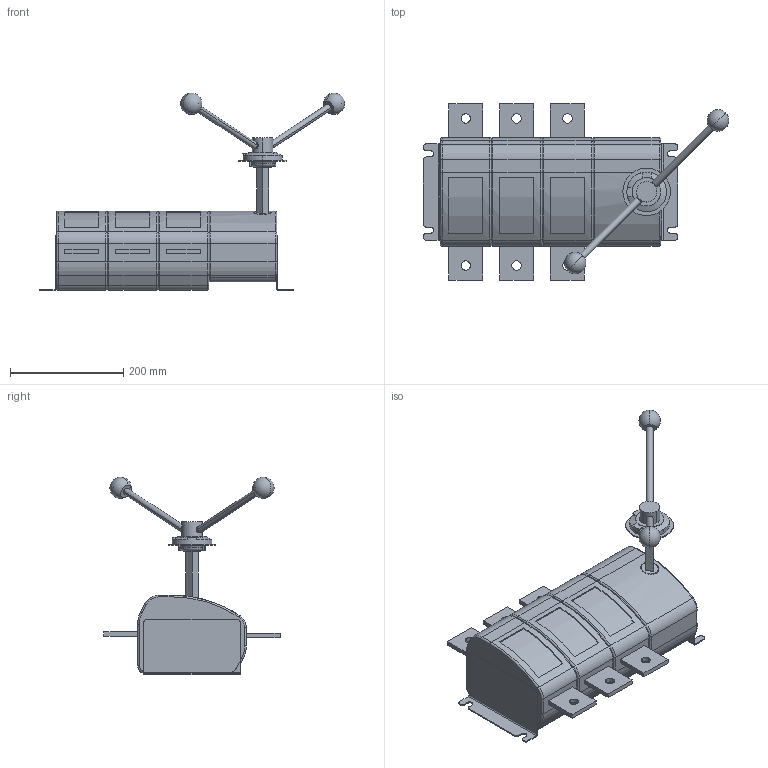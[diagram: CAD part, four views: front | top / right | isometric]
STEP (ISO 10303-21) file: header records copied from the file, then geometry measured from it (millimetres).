
FILE_DESCRIPTION (( 'STEP AP214' ), '1' );
FILE_NAME ('Âûêëþ÷àòåëü íàãðóçêè ÂÍÊ-41-31130-1000À-IP32-ÓÕË3-ÊÝÀÇ.STEP', '2023-04-19T13:37:33', ( '' ), ( '' ), 'SwSTEP 2.0', 'SolidWorks 2018', '' );
FILE_SCHEMA (( 'AUTOMOTIVE_DESIGN' ));
Length unit declared in the file: millimetre
Products named in the file (1): Âûêëþ÷àòåëü íàãðóçêè ÂÍÊ-41-31130-1000À-IP32-ÓÕË3-ÊÝÀÇ
Bounding box: 539.34 x 311.4 x 349.8 mm (x, y, z)
Volume: 9429857 mm3; surface area: 536727 mm2
Topology: 9 solids, 9 shells, 344 faces, 815 edges, 504 vertices
Faces by surface type: cylinder 141, plane 137, torus 60, sphere 4, cone 2
Entity records: 14094 total; most frequent: CARTESIAN_POINT 2052, DIRECTION 1838, ORIENTED_EDGE 1610, EDGE_CURVE 805, AXIS2_PLACEMENT_3D 708, VERTEX_POINT 498, LINE 422, VECTOR 422
